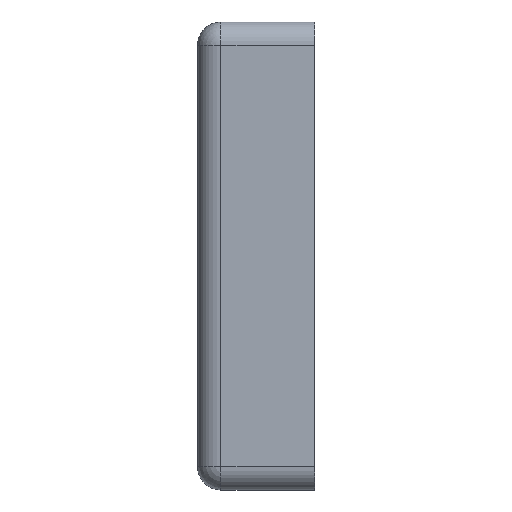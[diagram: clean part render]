
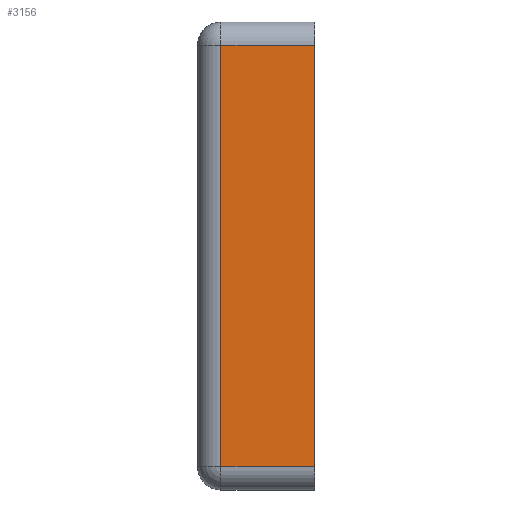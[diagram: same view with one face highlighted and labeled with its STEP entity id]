
A CAD part, left-side view. The second image highlights one B-rep face of the part: STEP entity #3156.
In plain terms, the highlighted planar face has unit normal (-1, 0, 0).
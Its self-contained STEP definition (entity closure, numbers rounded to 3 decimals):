
#127 = DIRECTION ( 'NONE',  ( 0., 0., -1. ) ) ;
#298 = CARTESIAN_POINT ( 'NONE',  ( -30., 15., 27. ) ) ;
#773 = ORIENTED_EDGE ( 'NONE', *, *, #1917, .T. ) ;
#820 = VECTOR ( 'NONE', #3389, 1000. ) ;
#845 = DIRECTION ( 'NONE',  ( 0., 0., -1. ) ) ;
#882 = PLANE ( 'NONE',  #3969 ) ;
#1007 = LINE ( 'NONE', #298, #4511 ) ;
#1030 = EDGE_CURVE ( 'NONE', #2842, #3643, #1489, .T. ) ;
#1489 = LINE ( 'NONE', #2913, #1760 ) ;
#1572 = CARTESIAN_POINT ( 'NONE',  ( -30., 0., 27. ) ) ;
#1667 = CARTESIAN_POINT ( 'NONE',  ( -30., 12., -27. ) ) ;
#1760 = VECTOR ( 'NONE', #845, 1000. ) ;
#1799 = VECTOR ( 'NONE', #4040, 1000. ) ;
#1917 = EDGE_CURVE ( 'NONE', #2711, #3153, #2321, .T. ) ;
#1960 = ORIENTED_EDGE ( 'NONE', *, *, #2204, .F. ) ;
#2204 = EDGE_CURVE ( 'NONE', #2842, #3153, #1007, .T. ) ;
#2321 = LINE ( 'NONE', #2951, #1799 ) ;
#2711 = VERTEX_POINT ( 'NONE', #4153 ) ;
#2718 = CARTESIAN_POINT ( 'NONE',  ( -30., 12., 27. ) ) ;
#2763 = CARTESIAN_POINT ( 'NONE',  ( -30., 15., -27. ) ) ;
#2842 = VERTEX_POINT ( 'NONE', #2718 ) ;
#2913 = CARTESIAN_POINT ( 'NONE',  ( -30., 12., -27. ) ) ;
#2951 = CARTESIAN_POINT ( 'NONE',  ( -30., 0., -27. ) ) ;
#3106 = ORIENTED_EDGE ( 'NONE', *, *, #1030, .T. ) ;
#3153 = VERTEX_POINT ( 'NONE', #1572 ) ;
#3156 = ADVANCED_FACE ( 'NONE', ( #3387 ), #882, .F. ) ;
#3170 = DIRECTION ( 'NONE',  ( 0., -1., 0. ) ) ;
#3254 = ORIENTED_EDGE ( 'NONE', *, *, #3707, .T. ) ;
#3387 = FACE_OUTER_BOUND ( 'NONE', #3575, .T. ) ;
#3389 = DIRECTION ( 'NONE',  ( 0., -1., 0. ) ) ;
#3409 = DIRECTION ( 'NONE',  ( 1., 0., 0. ) ) ;
#3575 = EDGE_LOOP ( 'NONE', ( #1960, #3106, #3254, #773 ) ) ;
#3643 = VERTEX_POINT ( 'NONE', #1667 ) ;
#3707 = EDGE_CURVE ( 'NONE', #3643, #2711, #4507, .T. ) ;
#3969 = AXIS2_PLACEMENT_3D ( 'NONE', #4076, #3409, #127 ) ;
#4040 = DIRECTION ( 'NONE',  ( 0., 0., 1. ) ) ;
#4076 = CARTESIAN_POINT ( 'NONE',  ( -30., 15., -27. ) ) ;
#4153 = CARTESIAN_POINT ( 'NONE',  ( -30., 0., -27. ) ) ;
#4507 = LINE ( 'NONE', #2763, #820 ) ;
#4511 = VECTOR ( 'NONE', #3170, 1000. ) ;
